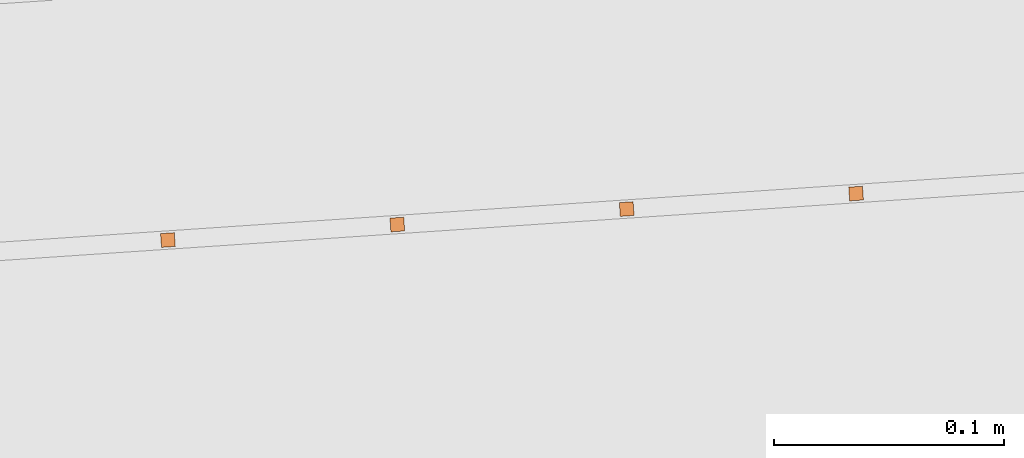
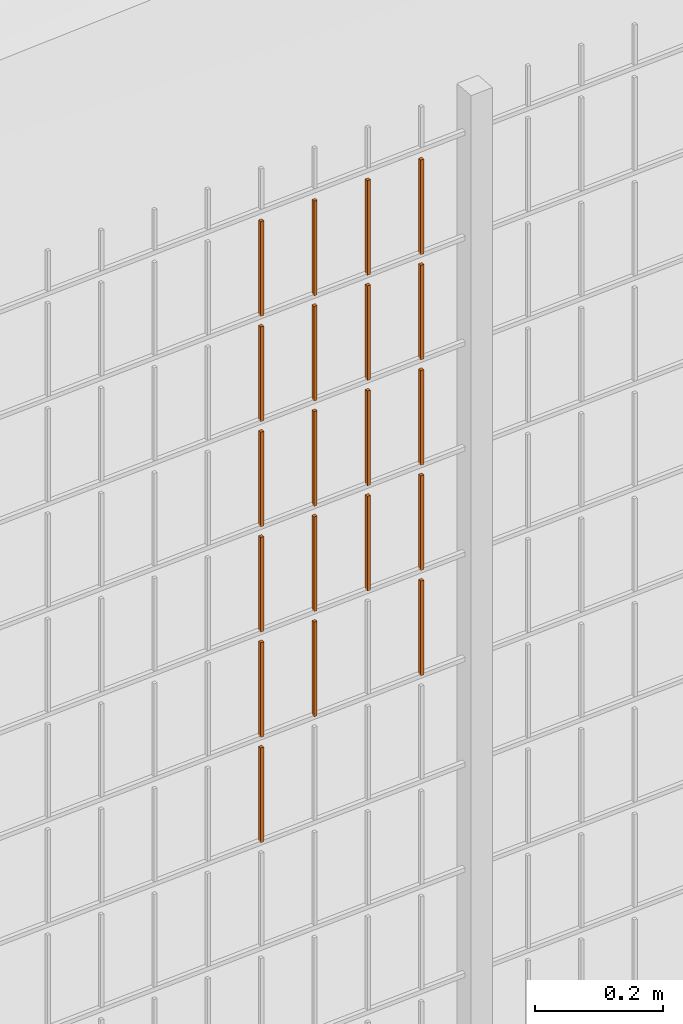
# One storey, part 300 of 1809: 20 proxies, 1 element without a shape of its own.
"""IFC2X3 building model written with IfcOpenShell, lengths in millimetres."""

from ifc_helpers import new_model, entity, si_unit, converted_unit, derived_unit, money_unit, direction, frame, origin_with_axes, place, context, subcontext, project, spatial, faceted_brep, source, transform, mapped, material, type_object, element, aggregate, save


model = new_model("IFC2X3")

# Units and contexts
model_context = context("Model", 3, precision=0.01, world=origin_with_axes(), true_north=direction((0.0, 1.0)))
body_context = subcontext(model_context, "Body", "Model", "MODEL_VIEW")
ifc_project = project(units=[si_unit("LENGTHUNIT", "METRE", prefix="MILLI"), si_unit("AREAUNIT", "SQUARE_METRE"), si_unit("VOLUMEUNIT", "CUBIC_METRE"), converted_unit("PLANEANGLEUNIT", "DEGREE", entity("IfcPlaneAngleMeasure", 0.0174532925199), si_unit("PLANEANGLEUNIT", "RADIAN"), dimensions=[0, 0, 0, 0, 0, 0, 0]), si_unit("SOLIDANGLEUNIT", "STERADIAN"), money_unit("EUR"), converted_unit("TIMEUNIT", "Year", entity("IfcTimeMeasure", 31556926.0), si_unit("TIMEUNIT", "SECOND"), dimensions=[0, 0, 1, 0, 0, 0, 0]), si_unit("MASSUNIT", "GRAM", prefix="KILO"), si_unit("THERMODYNAMICTEMPERATUREUNIT", "DEGREE_CELSIUS"), si_unit("LUMINOUSINTENSITYUNIT", "LUMEN"), si_unit("ENERGYUNIT", "JOULE", prefix="MEGA"), derived_unit("THERMALCONDUCTANCEUNIT", [(si_unit("POWERUNIT", "WATT"), 1), (si_unit("LENGTHUNIT", "METRE"), -1), (si_unit("THERMODYNAMICTEMPERATUREUNIT", "KELVIN"), -1)]), derived_unit("SPECIFICHEATCAPACITYUNIT", [(si_unit("ENERGYUNIT", "JOULE"), 1), (si_unit("MASSUNIT", "GRAM", prefix="KILO"), -1), (si_unit("THERMODYNAMICTEMPERATUREUNIT", "KELVIN"), -1)]), derived_unit("MASSDENSITYUNIT", [(si_unit("MASSUNIT", "GRAM", prefix="KILO"), 1), (si_unit("VOLUMEUNIT", "CUBIC_METRE"), -1)])], contexts=[model_context])

# Site, building, storey
site_placement = place(None, origin_with_axes())
site = spatial("IfcSite", under=ifc_project, at=site_placement, Name="Politse- ja Piirivalveameti ning Päästeameti ühishoone", CompositionType="ELEMENT")
building_placement = place(site_placement, origin_with_axes())
building = spatial("IfcBuilding", under=site, at=building_placement, Name="Politse- ja Piirivalveameti ning Päästeameti ühishoone", CompositionType="ELEMENT")
storey_placement = place(building_placement, origin_with_axes())
storey = spatial("IfcBuildingStorey", under=building, at=storey_placement, Name="Esimene korrus", CompositionType="ELEMENT", Elevation=0.0)

# Proxies
building_element_proxy_type_1 = type_object("IfcBuildingElementProxyType", Name="Railing Type", PredefinedType="NOTDEFINED")
proxy_1_placement = place(storey_placement, frame((89252.001212, -29183.4766571, 203.661247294), z_axis=(0.0, 0.0, 1.0), x_axis=(1.0, 0.0, 0.0)))
proxy_1 = element("IfcBuildingElementProxy", 1, at=proxy_1_placement, inside=storey, type_object=building_element_proxy_type_1, Name="PIIRDEAED")
ifc_material = material(Name="ET-03_Raud")
building_element_proxy_type_2 = type_object("IfcBuildingElementProxyType", Name="IfcBuildingElementProxy", PredefinedType="NOTDEFINED")
shared_shape_1 = source(origin_with_axes(), body_context, "Body", "Brep", [
    faceted_brep([(3.0, 3.0, -0.000752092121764), (-3.0, 3.0, -0.000752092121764), (-3.0, 3.0, 179.99926046), (3.0, 3.0, 179.99926046), (3.0, -3.0, 0.000752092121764), (-3.0, -3.0, 0.000752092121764), (-3.0, -3.0, 180.000764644), (3.0, -3.0, 180.000764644)], [[[0, 1, 2, 3]], [[0, 4, 5, 1]], [[1, 5, 6, 2]], [[3, 2, 6, 7]], [[4, 0, 3, 7]], [[5, 4, 7, 6]]]),
])
proxy_2_placement = place(proxy_1_placement, frame((-45024.0938087, -20338.9823836, 1815.92124334), z_axis=(0.0, 0.0, 1.0), x_axis=(1.0, 0.0, 0.0)))
proxy_2 = element("IfcBuildingElementProxy", 2, at=proxy_2_placement, type_object=building_element_proxy_type_2, material=ifc_material, Name="BALUSTER - 001", context=body_context, shape_type="MappedRepresentation", body=[
    mapped(shared_shape_1, transform((0.0, 0.0, 0.0), x_axis=(-0.0673926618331, 0.997726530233, 0.0), y_axis=(-0.997726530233, -0.0673926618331, 0.0), z_axis=(0.0, 0.0, 1.0))),
])
shared_shape_2 = source(origin_with_axes(), body_context, "Body", "Brep", [
    faceted_brep([(3.0, 3.0, -0.000752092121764), (-3.0, 3.0, -0.000752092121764), (-3.0, 3.0, 179.99926046), (3.0, 3.0, 179.99926046), (3.0, -3.0, 0.000752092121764), (-3.0, -3.0, 0.000752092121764), (-3.0, -3.0, 180.000764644), (3.0, -3.0, 180.000764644)], [[[0, 1, 2, 3]], [[0, 4, 5, 1]], [[1, 5, 6, 2]], [[3, 2, 6, 7]], [[4, 0, 3, 7]], [[5, 4, 7, 6]]]),
])
proxy_3_placement = place(proxy_1_placement, frame((-44924.3211557, -20332.2431174, 1215.94631308), z_axis=(0.0, 0.0, 1.0), x_axis=(1.0, 0.0, 0.0)))
proxy_3 = element("IfcBuildingElementProxy", 3, at=proxy_3_placement, type_object=building_element_proxy_type_2, material=ifc_material, Name="BALUSTER - 001", context=body_context, shape_type="MappedRepresentation", body=[
    mapped(shared_shape_2, transform((0.0, 0.0, 0.0), x_axis=(-0.0673926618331, 0.997726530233, 0.0), y_axis=(-0.997726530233, -0.0673926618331, 0.0), z_axis=(0.0, 0.0, 1.0))),
])
shared_shape_3 = source(origin_with_axes(), body_context, "Body", "Brep", [
    faceted_brep([(3.0, 3.0, -0.000752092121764), (-3.0, 3.0, -0.000752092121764), (-3.0, 3.0, 179.99926046), (3.0, 3.0, 179.99926046), (3.0, -3.0, 0.000752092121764), (-3.0, -3.0, 0.000752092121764), (-3.0, -3.0, 180.000764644), (3.0, -3.0, 180.000764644)], [[[0, 1, 2, 3]], [[0, 4, 5, 1]], [[1, 5, 6, 2]], [[3, 2, 6, 7]], [[4, 0, 3, 7]], [[5, 4, 7, 6]]]),
])
proxy_4_placement = place(proxy_1_placement, frame((-44924.3211557, -20332.2431174, 1815.94631308), z_axis=(0.0, 0.0, 1.0), x_axis=(1.0, 0.0, 0.0)))
proxy_4 = element("IfcBuildingElementProxy", 4, at=proxy_4_placement, type_object=building_element_proxy_type_2, material=ifc_material, Name="BALUSTER - 001", context=body_context, shape_type="MappedRepresentation", body=[
    mapped(shared_shape_3, transform((0.0, 0.0, 0.0), x_axis=(-0.0673926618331, 0.997726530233, 0.0), y_axis=(-0.997726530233, -0.0673926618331, 0.0), z_axis=(0.0, 0.0, 1.0))),
])
shared_shape_4 = source(origin_with_axes(), body_context, "Body", "Brep", [
    faceted_brep([(3.0, 3.0, -0.000752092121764), (-3.0, 3.0, -0.000752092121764), (-3.0, 3.0, 179.99926046), (3.0, 3.0, 179.99926046), (3.0, -3.0, 0.000752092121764), (-3.0, -3.0, 0.000752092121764), (-3.0, -3.0, 180.000764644), (3.0, -3.0, 180.000764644)], [[[0, 1, 2, 3]], [[0, 4, 5, 1]], [[1, 5, 6, 2]], [[3, 2, 6, 7]], [[4, 0, 3, 7]], [[5, 4, 7, 6]]]),
])
proxy_5_placement = place(proxy_1_placement, frame((-45024.0938087, -20338.9823836, 1415.92124334), z_axis=(0.0, 0.0, 1.0), x_axis=(1.0, 0.0, 0.0)))
proxy_5 = element("IfcBuildingElementProxy", 5, at=proxy_5_placement, type_object=building_element_proxy_type_2, material=ifc_material, Name="BALUSTER - 001", context=body_context, shape_type="MappedRepresentation", body=[
    mapped(shared_shape_4, transform((0.0, 0.0, 0.0), x_axis=(-0.0673926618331, 0.997726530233, 0.0), y_axis=(-0.997726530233, -0.0673926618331, 0.0), z_axis=(0.0, 0.0, 1.0))),
])
proxy_6_placement = place(proxy_1_placement, frame((-45024.0938087, -20338.9823836, 1615.92124334), z_axis=(0.0, 0.0, 1.0), x_axis=(1.0, 0.0, 0.0)))
proxy_6 = element("IfcBuildingElementProxy", 6, at=proxy_6_placement, type_object=building_element_proxy_type_2, material=ifc_material, Name="BALUSTER - 001", context=body_context, shape_type="MappedRepresentation", body=[
    mapped(shared_shape_4, transform((0.0, 0.0, 0.0), x_axis=(-0.0673926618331, 0.997726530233, 0.0), y_axis=(-0.997726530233, -0.0673926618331, 0.0), z_axis=(0.0, 0.0, 1.0))),
])
shared_shape_5 = source(origin_with_axes(), body_context, "Body", "Brep", [
    faceted_brep([(3.0, 3.0, -0.000752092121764), (-3.0, 3.0, -0.000752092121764), (-3.0, 3.0, 179.99926046), (3.0, 3.0, 179.99926046), (3.0, -3.0, 0.000752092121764), (-3.0, -3.0, 0.000752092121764), (-3.0, -3.0, 180.000764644), (3.0, -3.0, 180.000764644)], [[[0, 1, 2, 3]], [[0, 4, 5, 1]], [[1, 5, 6, 2]], [[3, 2, 6, 7]], [[4, 0, 3, 7]], [[5, 4, 7, 6]]]),
])
proxy_7_placement = place(proxy_1_placement, frame((-45024.0938087, -20338.9823836, 1215.92124334), z_axis=(0.0, 0.0, 1.0), x_axis=(1.0, 0.0, 0.0)))
proxy_7 = element("IfcBuildingElementProxy", 7, at=proxy_7_placement, type_object=building_element_proxy_type_2, material=ifc_material, Name="BALUSTER - 001", context=body_context, shape_type="MappedRepresentation", body=[
    mapped(shared_shape_5, transform((0.0, 0.0, 0.0), x_axis=(-0.0673926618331, 0.997726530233, 0.0), y_axis=(-0.997726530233, -0.0673926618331, 0.0), z_axis=(0.0, 0.0, 1.0))),
])
shared_shape_6 = source(origin_with_axes(), body_context, "Body", "Brep", [
    faceted_brep([(3.0, 3.0, -0.000752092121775), (-3.0, 3.0, -0.000752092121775), (-3.0, 3.0, 179.99926046), (3.0, 3.0, 179.99926046), (3.0, -3.0, 0.000752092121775), (-3.0, -3.0, 0.000752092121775), (-3.0, -3.0, 180.000764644), (3.0, -3.0, 180.000764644)], [[[0, 1, 2, 3]], [[0, 4, 5, 1]], [[1, 5, 6, 2]], [[3, 2, 6, 7]], [[4, 0, 3, 7]], [[5, 4, 7, 6]]]),
])
proxy_8_placement = place(proxy_1_placement, frame((-44824.5485026, -20325.5038512, 1815.97138282), z_axis=(0.0, 0.0, 1.0), x_axis=(1.0, 0.0, 0.0)))
proxy_8 = element("IfcBuildingElementProxy", 8, at=proxy_8_placement, type_object=building_element_proxy_type_2, material=ifc_material, Name="BALUSTER - 001", context=body_context, shape_type="MappedRepresentation", body=[
    mapped(shared_shape_6, transform((0.0, 0.0, 0.0), x_axis=(-0.0673926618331, 0.997726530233, 0.0), y_axis=(-0.997726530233, -0.0673926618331, 0.0), z_axis=(0.0, 0.0, 1.0))),
])
shared_shape_7 = source(origin_with_axes(), body_context, "Body", "Brep", [
    faceted_brep([(3.0, 3.0, -0.000752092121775), (-3.0, 3.0, -0.000752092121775), (-3.0, 3.0, 179.99926046), (3.0, 3.0, 179.99926046), (3.0, -3.0, 0.000752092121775), (-3.0, -3.0, 0.000752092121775), (-3.0, -3.0, 180.000764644), (3.0, -3.0, 180.000764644)], [[[0, 1, 2, 3]], [[0, 4, 5, 1]], [[1, 5, 6, 2]], [[3, 2, 6, 7]], [[4, 0, 3, 7]], [[5, 4, 7, 6]]]),
])
proxy_9_placement = place(proxy_1_placement, frame((-44824.5485026, -20325.5038512, 1215.97138282), z_axis=(0.0, 0.0, 1.0), x_axis=(1.0, 0.0, 0.0)))
proxy_9 = element("IfcBuildingElementProxy", 9, at=proxy_9_placement, type_object=building_element_proxy_type_2, material=ifc_material, Name="BALUSTER - 001", context=body_context, shape_type="MappedRepresentation", body=[
    mapped(shared_shape_7, transform((0.0, 0.0, 0.0), x_axis=(-0.0673926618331, 0.997726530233, 0.0), y_axis=(-0.997726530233, -0.0673926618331, 0.0), z_axis=(0.0, 0.0, 1.0))),
])
shared_shape_8 = source(origin_with_axes(), body_context, "Body", "Brep", [
    faceted_brep([(3.0, 3.0, -0.000752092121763), (-3.0, 3.0, -0.000752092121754), (-3.00000000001, 2.99999999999, 179.99926046), (2.99999999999, 2.99999999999, 179.99926046), (3.0, -3.0, 0.000752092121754), (-3.0, -3.0, 0.000752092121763), (-3.00000000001, -3.00000000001, 180.000764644), (2.99999999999, -3.00000000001, 180.000764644)], [[[0, 1, 2, 3]], [[0, 4, 5, 1]], [[1, 5, 6, 2]], [[3, 2, 6, 7]], [[4, 0, 3, 7]], [[5, 4, 7, 6]]]),
])
proxy_10_placement = place(proxy_1_placement, frame((-45123.8664617, -20345.7216498, 1015.89617361), z_axis=(0.0, 0.0, 1.0), x_axis=(1.0, 0.0, 0.0)))
proxy_10 = element("IfcBuildingElementProxy", 10, at=proxy_10_placement, type_object=building_element_proxy_type_2, material=ifc_material, Name="BALUSTER - 001", context=body_context, shape_type="MappedRepresentation", body=[
    mapped(shared_shape_8, transform((0.0, 0.0, 0.0), x_axis=(-0.0673926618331, 0.997726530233, 0.0), y_axis=(-0.997726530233, -0.0673926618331, 0.0), z_axis=(0.0, 0.0, 1.0))),
])
shared_shape_9 = source(origin_with_axes(), body_context, "Body", "Brep", [
    faceted_brep([(3.0, 3.0, -0.000752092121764), (-3.0, 3.0, -0.000752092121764), (-3.0, 3.0, 179.99926046), (3.0, 3.0, 179.99926046), (3.0, -3.0, 0.000752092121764), (-3.0, -3.0, 0.000752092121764), (-3.0, -3.0, 180.000764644), (3.0, -3.0, 180.000764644)], [[[0, 1, 2, 3]], [[0, 4, 5, 1]], [[1, 5, 6, 2]], [[3, 2, 6, 7]], [[4, 0, 3, 7]], [[5, 4, 7, 6]]]),
])
proxy_11_placement = place(proxy_1_placement, frame((-45123.8664617, -20345.7216498, 1815.89617361), z_axis=(0.0, 0.0, 1.0), x_axis=(1.0, 0.0, 0.0)))
proxy_11 = element("IfcBuildingElementProxy", 11, at=proxy_11_placement, type_object=building_element_proxy_type_2, material=ifc_material, Name="BALUSTER - 001", context=body_context, shape_type="MappedRepresentation", body=[
    mapped(shared_shape_9, transform((0.0, 0.0, 0.0), x_axis=(-0.0673926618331, 0.997726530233, 0.0), y_axis=(-0.997726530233, -0.0673926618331, 0.0), z_axis=(0.0, 0.0, 1.0))),
])
shared_shape_10 = source(origin_with_axes(), body_context, "Body", "Brep", [
    faceted_brep([(3.0, 3.0, -0.000752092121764), (-3.0, 3.0, -0.000752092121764), (-3.0, 3.0, 179.99926046), (3.0, 3.0, 179.99926046), (3.0, -3.0, 0.000752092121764), (-3.0, -3.0, 0.000752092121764), (-3.0, -3.0, 180.000764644), (3.0, -3.0, 180.000764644)], [[[0, 1, 2, 3]], [[0, 4, 5, 1]], [[1, 5, 6, 2]], [[3, 2, 6, 7]], [[4, 0, 3, 7]], [[5, 4, 7, 6]]]),
])
proxy_12_placement = place(proxy_1_placement, frame((-45123.8664617, -20345.7216498, 815.896173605), z_axis=(0.0, 0.0, 1.0), x_axis=(1.0, 0.0, 0.0)))
proxy_12 = element("IfcBuildingElementProxy", 12, at=proxy_12_placement, type_object=building_element_proxy_type_2, material=ifc_material, Name="BALUSTER - 001", context=body_context, shape_type="MappedRepresentation", body=[
    mapped(shared_shape_10, transform((0.0, 0.0, 0.0), x_axis=(-0.0673926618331, 0.997726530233, 0.0), y_axis=(-0.997726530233, -0.0673926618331, 0.0), z_axis=(0.0, 0.0, 1.0))),
])
proxy_13_placement = place(proxy_1_placement, frame((-45123.8664617, -20345.7216498, 1215.89617361), z_axis=(0.0, 0.0, 1.0), x_axis=(1.0, 0.0, 0.0)))
proxy_13 = element("IfcBuildingElementProxy", 13, at=proxy_13_placement, type_object=building_element_proxy_type_2, material=ifc_material, Name="BALUSTER - 001", context=body_context, shape_type="MappedRepresentation", body=[
    mapped(shared_shape_10, transform((0.0, 0.0, 0.0), x_axis=(-0.0673926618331, 0.997726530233, 0.0), y_axis=(-0.997726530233, -0.0673926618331, 0.0), z_axis=(0.0, 0.0, 1.0))),
])
shared_shape_11 = source(origin_with_axes(), body_context, "Body", "Brep", [
    faceted_brep([(3.0, 3.0, -0.000752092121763), (-3.0, 3.0, -0.000752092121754), (-3.00000000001, 2.99999999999, 179.99926046), (2.99999999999, 2.99999999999, 179.99926046), (3.0, -3.0, 0.000752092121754), (-3.0, -3.0, 0.000752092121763), (-3.00000000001, -3.00000000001, 180.000764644), (2.99999999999, -3.00000000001, 180.000764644)], [[[0, 1, 2, 3]], [[0, 4, 5, 1]], [[1, 5, 6, 2]], [[3, 2, 6, 7]], [[4, 0, 3, 7]], [[5, 4, 7, 6]]]),
])
proxy_14_placement = place(proxy_1_placement, frame((-45024.0938087, -20338.9823836, 1015.92124334), z_axis=(0.0, 0.0, 1.0), x_axis=(1.0, 0.0, 0.0)))
proxy_14 = element("IfcBuildingElementProxy", 14, at=proxy_14_placement, type_object=building_element_proxy_type_2, material=ifc_material, Name="BALUSTER - 001", context=body_context, shape_type="MappedRepresentation", body=[
    mapped(shared_shape_11, transform((0.0, 0.0, 0.0), x_axis=(-0.0673926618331, 0.997726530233, 0.0), y_axis=(-0.997726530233, -0.0673926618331, 0.0), z_axis=(0.0, 0.0, 1.0))),
])
shared_shape_12 = source(origin_with_axes(), body_context, "Body", "Brep", [
    faceted_brep([(3.0, 3.0, -0.000752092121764), (-3.0, 3.0, -0.000752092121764), (-3.0, 3.0, 179.99926046), (3.0, 3.0, 179.99926046), (3.0, -3.0, 0.000752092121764), (-3.0, -3.0, 0.000752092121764), (-3.0, -3.0, 180.000764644), (3.0, -3.0, 180.000764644)], [[[0, 1, 2, 3]], [[0, 4, 5, 1]], [[1, 5, 6, 2]], [[3, 2, 6, 7]], [[4, 0, 3, 7]], [[5, 4, 7, 6]]]),
])
proxy_15_placement = place(proxy_1_placement, frame((-45123.8664617, -20345.7216498, 1415.89617361), z_axis=(0.0, 0.0, 1.0), x_axis=(1.0, 0.0, 0.0)))
proxy_15 = element("IfcBuildingElementProxy", 15, at=proxy_15_placement, type_object=building_element_proxy_type_2, material=ifc_material, Name="BALUSTER - 001", context=body_context, shape_type="MappedRepresentation", body=[
    mapped(shared_shape_12, transform((0.0, 0.0, 0.0), x_axis=(-0.0673926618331, 0.997726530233, 0.0), y_axis=(-0.997726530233, -0.0673926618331, 0.0), z_axis=(0.0, 0.0, 1.0))),
])
proxy_16_placement = place(proxy_1_placement, frame((-45123.8664617, -20345.7216498, 1615.89617361), z_axis=(0.0, 0.0, 1.0), x_axis=(1.0, 0.0, 0.0)))
proxy_16 = element("IfcBuildingElementProxy", 16, at=proxy_16_placement, type_object=building_element_proxy_type_2, material=ifc_material, Name="BALUSTER - 001", context=body_context, shape_type="MappedRepresentation", body=[
    mapped(shared_shape_12, transform((0.0, 0.0, 0.0), x_axis=(-0.0673926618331, 0.997726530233, 0.0), y_axis=(-0.997726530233, -0.0673926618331, 0.0), z_axis=(0.0, 0.0, 1.0))),
])
shared_shape_13 = source(origin_with_axes(), body_context, "Body", "Brep", [
    faceted_brep([(3.0, 3.0, -0.000752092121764), (-3.0, 3.0, -0.000752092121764), (-3.0, 3.0, 179.99926046), (3.0, 3.0, 179.99926046), (3.0, -3.0, 0.000752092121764), (-3.0, -3.0, 0.000752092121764), (-3.0, -3.0, 180.000764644), (3.0, -3.0, 180.000764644)], [[[0, 1, 2, 3]], [[0, 4, 5, 1]], [[1, 5, 6, 2]], [[3, 2, 6, 7]], [[4, 0, 3, 7]], [[5, 4, 7, 6]]]),
])
proxy_17_placement = place(proxy_1_placement, frame((-44924.3211557, -20332.2431174, 1415.94631308), z_axis=(0.0, 0.0, 1.0), x_axis=(1.0, 0.0, 0.0)))
proxy_17 = element("IfcBuildingElementProxy", 17, at=proxy_17_placement, type_object=building_element_proxy_type_2, material=ifc_material, Name="BALUSTER - 001", context=body_context, shape_type="MappedRepresentation", body=[
    mapped(shared_shape_13, transform((0.0, 0.0, 0.0), x_axis=(-0.0673926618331, 0.997726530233, 0.0), y_axis=(-0.997726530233, -0.0673926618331, 0.0), z_axis=(0.0, 0.0, 1.0))),
])
proxy_18_placement = place(proxy_1_placement, frame((-44924.3211557, -20332.2431174, 1615.94631308), z_axis=(0.0, 0.0, 1.0), x_axis=(1.0, 0.0, 0.0)))
proxy_18 = element("IfcBuildingElementProxy", 18, at=proxy_18_placement, type_object=building_element_proxy_type_2, material=ifc_material, Name="BALUSTER - 001", context=body_context, shape_type="MappedRepresentation", body=[
    mapped(shared_shape_13, transform((0.0, 0.0, 0.0), x_axis=(-0.0673926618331, 0.997726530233, 0.0), y_axis=(-0.997726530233, -0.0673926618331, 0.0), z_axis=(0.0, 0.0, 1.0))),
])
shared_shape_14 = source(origin_with_axes(), body_context, "Body", "Brep", [
    faceted_brep([(3.0, 3.0, -0.000752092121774), (-3.0, 3.0, -0.000752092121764), (-3.00000000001, 2.99999999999, 179.99926046), (2.99999999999, 2.99999999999, 179.99926046), (3.0, -3.0, 0.000752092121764), (-3.0, -3.0, 0.000752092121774), (-3.00000000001, -3.00000000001, 180.000764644), (2.99999999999, -3.00000000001, 180.000764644)], [[[0, 1, 2, 3]], [[0, 4, 5, 1]], [[1, 5, 6, 2]], [[3, 2, 6, 7]], [[4, 0, 3, 7]], [[5, 4, 7, 6]]]),
])
proxy_19_placement = place(proxy_1_placement, frame((-44824.5485026, -20325.5038512, 1015.97138282), z_axis=(0.0, 0.0, 1.0), x_axis=(1.0, 0.0, 0.0)))
proxy_19 = element("IfcBuildingElementProxy", 19, at=proxy_19_placement, type_object=building_element_proxy_type_2, material=ifc_material, Name="BALUSTER - 001", context=body_context, shape_type="MappedRepresentation", body=[
    mapped(shared_shape_14, transform((0.0, 0.0, 0.0), x_axis=(-0.0673926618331, 0.997726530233, 0.0), y_axis=(-0.997726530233, -0.0673926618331, 0.0), z_axis=(0.0, 0.0, 1.0))),
])
shared_shape_15 = source(origin_with_axes(), body_context, "Body", "Brep", [
    faceted_brep([(3.0, 3.0, -0.000752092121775), (-3.0, 3.0, -0.000752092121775), (-3.0, 3.0, 179.99926046), (3.0, 3.0, 179.99926046), (3.0, -3.0, 0.000752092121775), (-3.0, -3.0, 0.000752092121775), (-3.0, -3.0, 180.000764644), (3.0, -3.0, 180.000764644)], [[[0, 1, 2, 3]], [[0, 4, 5, 1]], [[1, 5, 6, 2]], [[3, 2, 6, 7]], [[4, 0, 3, 7]], [[5, 4, 7, 6]]]),
])
proxy_20_placement = place(proxy_1_placement, frame((-44824.5485026, -20325.5038512, 1415.97138282), z_axis=(0.0, 0.0, 1.0), x_axis=(1.0, 0.0, 0.0)))
proxy_20 = element("IfcBuildingElementProxy", 20, at=proxy_20_placement, type_object=building_element_proxy_type_2, material=ifc_material, Name="BALUSTER - 001", context=body_context, shape_type="MappedRepresentation", body=[
    mapped(shared_shape_15, transform((0.0, 0.0, 0.0), x_axis=(-0.0673926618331, 0.997726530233, 0.0), y_axis=(-0.997726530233, -0.0673926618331, 0.0), z_axis=(0.0, 0.0, 1.0))),
])
proxy_21_placement = place(proxy_1_placement, frame((-44824.5485026, -20325.5038512, 1615.97138282), z_axis=(0.0, 0.0, 1.0), x_axis=(1.0, 0.0, 0.0)))
proxy_21 = element("IfcBuildingElementProxy", 21, at=proxy_21_placement, type_object=building_element_proxy_type_2, material=ifc_material, Name="BALUSTER - 001", context=body_context, shape_type="MappedRepresentation", body=[
    mapped(shared_shape_15, transform((0.0, 0.0, 0.0), x_axis=(-0.0673926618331, 0.997726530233, 0.0), y_axis=(-0.997726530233, -0.0673926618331, 0.0), z_axis=(0.0, 0.0, 1.0))),
])
aggregate(proxy_1, [proxy_12, proxy_19, proxy_14, proxy_10, proxy_9, proxy_3, proxy_7, proxy_13, proxy_20, proxy_17, proxy_5, proxy_15, proxy_21, proxy_18, proxy_6, proxy_16, proxy_8, proxy_4, proxy_2, proxy_11])

save(model, "model.ifc")
